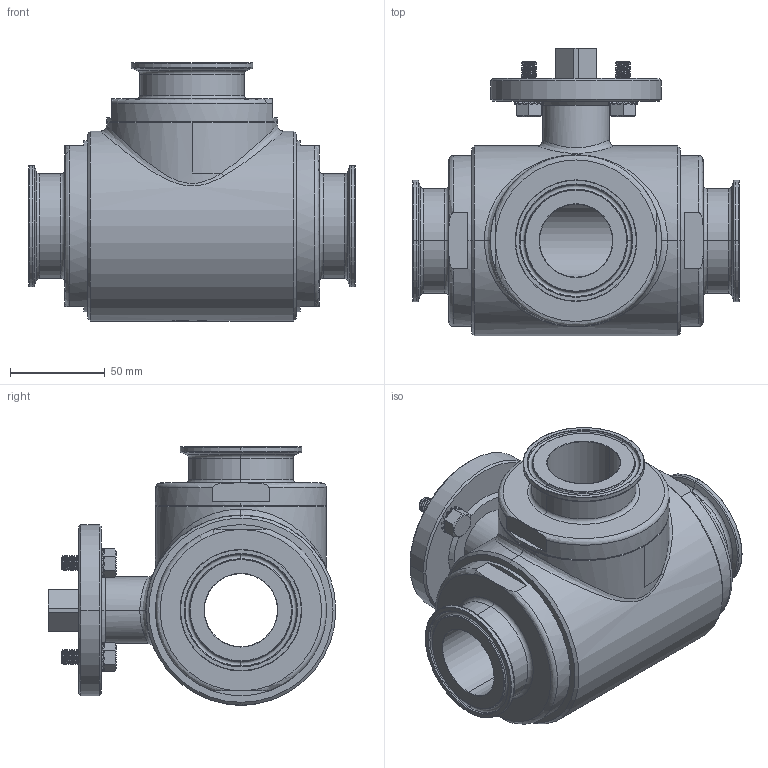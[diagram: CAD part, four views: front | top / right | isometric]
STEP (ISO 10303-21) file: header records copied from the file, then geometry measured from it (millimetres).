
FILE_DESCRIPTION((''),'2;1');
FILE_NAME('3030306331F','2023-08-29T15:07:33',('alfio.taboni'),('CDM Tecnoconsulting'),'CREO PARAMETRIC BY PTC INC, 2020053','CREO PARAMETRIC BY PTC INC, 2020053','');
FILE_SCHEMA(('CONFIG_CONTROL_DESIGN','SHAPE_APPEARANCE_LAYERS_GROUPS'));
Products named in the file (1): 3030306331F
Bounding box: 172 x 151.5 x 136 mm (x, y, z)
Volume: 999663.2 mm3; surface area: 198814.1 mm2
Topology: 1 solids, 1 shells, 1340 faces, 3577 edges, 2288 vertices
Faces by surface type: plane 466, cylinder 427, cone 199, torus 130, bspline 61, extrusion 55, sphere 2
Entity records: 86878 total; most frequent: CARTESIAN_POINT 42621, ORIENTED_EDGE 7142, DIRECTION 5887, PRESENTATION_STYLE_ASSIGNMENT 3841, STYLED_ITEM 3627, CURVE_STYLE 3626, EDGE_CURVE 3571, VERTEX_POINT 2288
